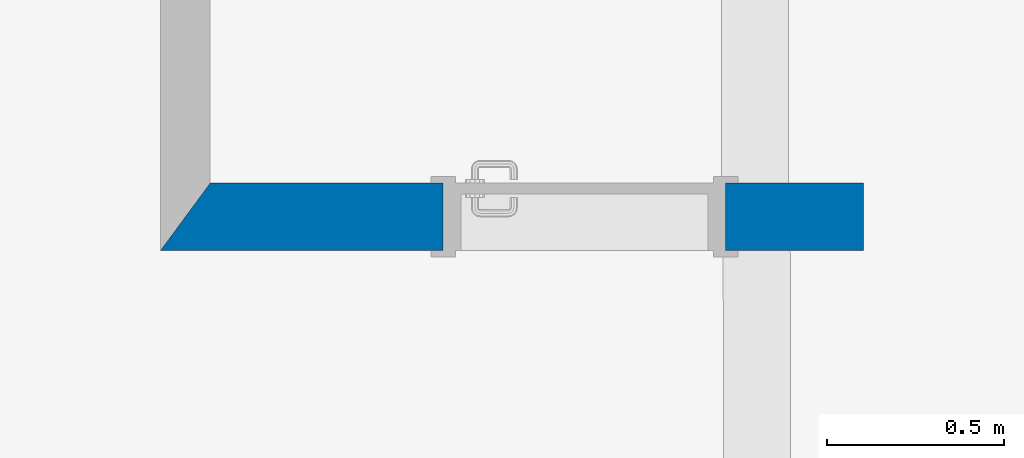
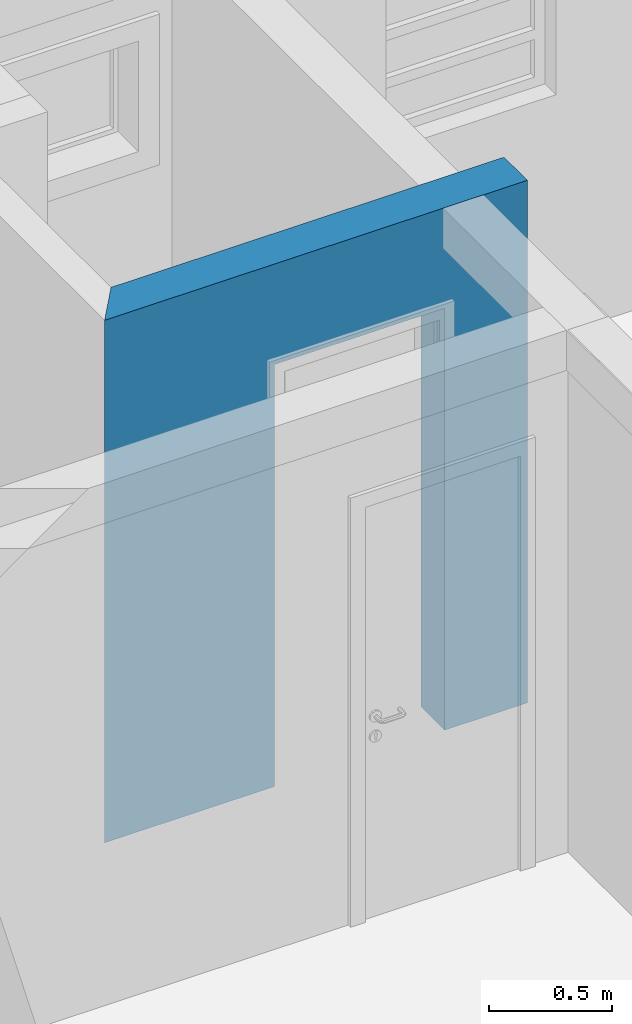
# One storey, part 17 of 43: 1 wall, 1 opening.
"""IFC2X3 building model written with IfcOpenShell, lengths in millimetres."""

from ifc_helpers import new_model, entity, si_unit, converted_unit, derived_unit, money_unit, direction, frame, origin_with_axes, origin_2d_with_axis, place, context, subcontext, project, spatial, polyline, rectangle, outline, extrude, material, layer, layer_set, layer_usage, type_object, element, save


model = new_model("IFC2X3")

# Units and contexts
model_context = context("Model", 3, precision=0.01, world=origin_with_axes(), true_north=direction((0.0, 1.0)))
body_context = subcontext(model_context, "Body", "Model", "MODEL_VIEW")
ifc_project = project(units=[si_unit("LENGTHUNIT", "METRE", prefix="MILLI"), si_unit("AREAUNIT", "SQUARE_METRE"), si_unit("VOLUMEUNIT", "CUBIC_METRE"), converted_unit("PLANEANGLEUNIT", "DEGREE", entity("IfcPlaneAngleMeasure", 0.0174532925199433), si_unit("PLANEANGLEUNIT", "RADIAN"), dimensions=[0, 0, 0, 0, 0, 0, 0]), money_unit("USD"), converted_unit("TIMEUNIT", "Year", entity("IfcTimeMeasure", 31557600.0), si_unit("TIMEUNIT", "SECOND"), dimensions=[0, 0, 1, 0, 0, 0, 0]), si_unit("MASSUNIT", "GRAM", prefix="KILO"), si_unit("THERMODYNAMICTEMPERATUREUNIT", "DEGREE_CELSIUS"), si_unit("LUMINOUSINTENSITYUNIT", "LUMEN"), si_unit("ENERGYUNIT", "JOULE", prefix="MEGA"), derived_unit("THERMALCONDUCTANCEUNIT", [(si_unit("POWERUNIT", "WATT"), 1), (si_unit("LENGTHUNIT", "METRE"), -1), (si_unit("THERMODYNAMICTEMPERATUREUNIT", "KELVIN"), -1)]), derived_unit("SPECIFICHEATCAPACITYUNIT", [(si_unit("ENERGYUNIT", "JOULE"), 1), (si_unit("MASSUNIT", "GRAM", prefix="KILO"), -1), (si_unit("THERMODYNAMICTEMPERATUREUNIT", "KELVIN"), -1)]), derived_unit("MASSDENSITYUNIT", [(si_unit("MASSUNIT", "GRAM", prefix="KILO"), 1), (si_unit("VOLUMEUNIT", "CUBIC_METRE"), -1)])], contexts=[model_context])

# Site, building, storey
site_placement = place(None, origin_with_axes())
site = spatial("IfcSite", under=ifc_project, at=site_placement, Name="Local", CompositionType="ELEMENT")
building_placement = place(site_placement, origin_with_axes())
building = spatial("IfcBuilding", under=site, at=building_placement, Name="Construção", CompositionType="ELEMENT")
storey_placement = place(building_placement, origin_with_axes())
storey = spatial("IfcBuildingStorey", under=building, at=storey_placement, Name="Pavimento Tipo", CompositionType="ELEMENT", Elevation=0.0)

# Wall, opening
ifc_material = material(Name="Concreto - Estrutural")
ifc_layer = layer(ifc_material, 190.0, ventilated="UNKNOWN")
ifc_layer_set = layer_set([ifc_layer], Name="Concreto - Estrutural 190")
ifc_layer_usage = layer_usage(ifc_layer_set, "AXIS2", "POSITIVE", -190.0)
wall_type = type_object("IfcWallType", Name="Concreto - Estrutural 190", PredefinedType="NOTDEFINED")
wall_placement = place(storey_placement, frame((68286.96486497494, -3767.538479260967, 0.0), z_axis=(0.0, 0.0, 1.0), x_axis=(1.0, 0.0, 0.0)))
wall = element("IfcWallStandardCase", 1, at=wall_placement, inside=storey, type_object=wall_type, material=ifc_layer_usage, Name="Apartamento 4 - Parede-008", context=body_context, shape_type="SweptSolid", body=[
    extrude(outline(polyline([(0.0, -189.9999999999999), (1990.000000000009, -189.9999999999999), (1990.000000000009, 0.0), (140.0000000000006, 0.0), (0.0, -189.9999999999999)])), origin_with_axes(), (0.0, 0.0, 1.0), 2600.0),
])
opening_placement = place(wall_placement, frame((1200.000000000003, 0.0, 0.0), z_axis=(0.0, 0.0, 1.0), x_axis=(1.0, 0.0, 0.0)))
element("IfcOpeningElement", 2, at=opening_placement, cuts=wall, Name="Apartamento 4 - P02", context=body_context, shape_type="SweptSolid", body=[
    extrude(rectangle(XDim=800.0000000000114, YDim=2100.0, at=origin_2d_with_axis()), frame((0.0, 189.9999999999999, 1050.0), z_axis=(0.0, -1.0, 0.0), x_axis=(1.0, 0.0, 0.0)), (0.0, 0.0, 1.0), 570.0000000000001),
    extrude(rectangle(XDim=870.0000000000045, YDim=2135.0, at=origin_2d_with_axis()), frame((0.0, 0.0, 1067.5), z_axis=(0.0, -1.0, 0.0), x_axis=(1.0, 0.0, 0.0)), (0.0, 0.0, -1.0), 190.0),
    extrude(rectangle(XDim=870.0000000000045, YDim=2135.0, at=origin_2d_with_axis()), frame((0.0, -189.9999999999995, 1067.5), z_axis=(0.0, 1.0, 0.0), x_axis=(1.0, 0.0, 0.0)), (0.0, 0.0, -1.0), 190.0),
])

save(model, "model.ifc")
